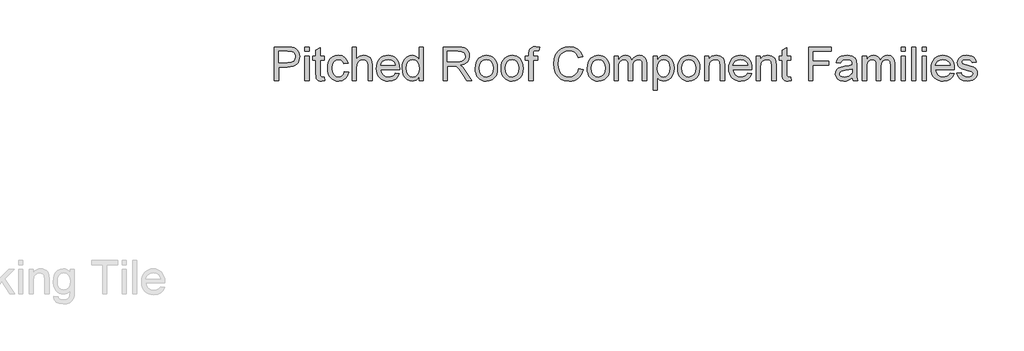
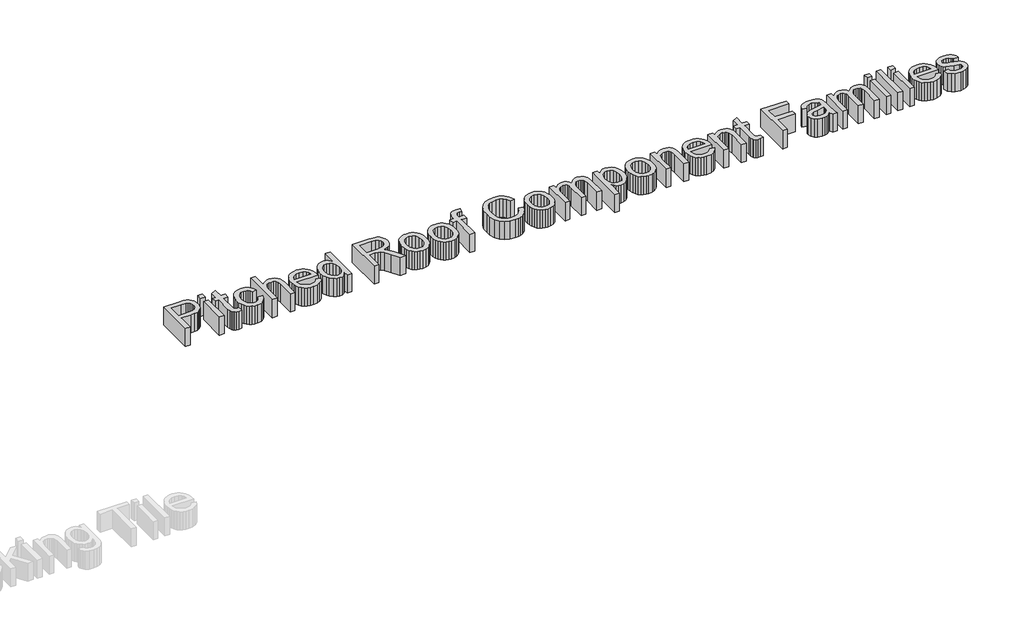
# One storey, part 5 of 6: 1 proxy.
"""IFC4 building model written with IfcOpenShell, lengths in millimetres."""

import ifcopenshell
import ifcopenshell.guid

model = None  # the IFC model being written
_history = None  # IfcOwnerHistory: only IFC2X3 demands one
_inside = {}  # id of a spatial element -> (the spatial element, [elements in it])
_under = {}  # id of a project, library or spatial element -> (it, [spatial elements below it])
_declared = {}  # id of a project -> (the project, [libraries it declares])
_typed = {}  # id of a type object -> (the type object, [elements of that type])
_made_of = {}  # id of a material, layer set ... -> (it, [elements and type objects made of it])


def new_model(schema):
    """Start an empty IFC model of exactly this schema.

    Asked for "IFC4X3", IfcOpenShell would pick the latest addendum, in which some entities
    have other attributes; the version numbers below select the first issue.
    IFC2X3 requires an IfcOwnerHistory on every rooted entity: one is made here for all.
    """
    global model, _history
    if schema == "IFC4X3":
        model = ifcopenshell.file(schema_version=(4, 3, 0, 0))
    else:
        model = ifcopenshell.file(schema=schema)
    _inside.clear()
    _under.clear()
    _declared.clear()
    _typed.clear()
    _made_of.clear()
    _history = None
    if model.schema == "IFC2X3":
        org = make("IfcOrganization", Name="unknown")
        user = make(
            "IfcPersonAndOrganization",
            ThePerson=make("IfcPerson", FamilyName="unknown"),
            TheOrganization=org,
        )
        app = make(
            "IfcApplication",
            ApplicationDeveloper=org,
            Version="unknown",
            ApplicationFullName="unknown",
            ApplicationIdentifier="unknown",
        )
        _history = make(
            "IfcOwnerHistory",
            OwningUser=user,
            OwningApplication=app,
            ChangeAction="ADDED",
            CreationDate=0,
        )
    return model


def make(cls, **values):
    """One entity of the class cls with the attributes given. An attribute that is None is left unset."""
    return model.create_entity(
        cls, **{name: value for name, value in values.items() if value is not None}
    )


def rooted(cls, **values):
    """An entity with a GlobalId (a new one), such as an element, a storey or a relation."""
    return make(cls, GlobalId=ifcopenshell.guid.new(), OwnerHistory=_history, **values)


def si_unit(unit_type, name, prefix=None):
    """IfcSIUnit, for example si_unit("LENGTHUNIT", "METRE", prefix="MILLI")."""
    return make("IfcSIUnit", UnitType=unit_type, Prefix=prefix, Name=name)


def assignment(units):
    """IfcUnitAssignment: the units of a project."""
    return None if units is None else make("IfcUnitAssignment", Units=units)


def point(xyz):
    """IfcCartesianPoint."""
    return None if xyz is None else make("IfcCartesianPoint", Coordinates=xyz)


def direction(xyz):
    """IfcDirection."""
    return None if xyz is None else make("IfcDirection", DirectionRatios=xyz)


def frame(location, z_axis=None, x_axis=None):
    """IfcAxis2Placement3D, a coordinate frame: its origin and axes. An axis left out is left unset."""
    return make(
        "IfcAxis2Placement3D",
        Location=point(location),
        Axis=direction(z_axis),
        RefDirection=direction(x_axis),
    )


def origin():
    """The frame at (0, 0, 0) with its axes left unset."""
    return frame((0.0, 0.0, 0.0))


def place(relative_to, where):
    """IfcLocalPlacement: puts the frame where relative to a parent placement (None: the world)."""
    return make(
        "IfcLocalPlacement", PlacementRelTo=relative_to, RelativePlacement=where
    )


def context(
    kind, dimensions, precision=None, world=None, true_north=None, identifier=None
):
    """IfcGeometricRepresentationContext, for example the 3D "Model" context."""
    return make(
        "IfcGeometricRepresentationContext",
        ContextIdentifier=identifier,
        ContextType=kind,
        CoordinateSpaceDimension=dimensions,
        Precision=precision,
        WorldCoordinateSystem=world,
        TrueNorth=true_north,
    )


def project(units=None, contexts=None):
    """IfcProject with its units and contexts."""
    return rooted(
        "IfcProject",
        Name="project",
        RepresentationContexts=contexts,
        UnitsInContext=assignment(units),
    )


def spatial(cls, under=None, at=None, **own):
    """A site, building, storey or space (cls), placed at a placement, below another one or the project."""
    s = rooted(cls, ObjectPlacement=at, **own)
    if under is not None:
        _under.setdefault(under.id(), (under, []))[1].append(s)
    return s


def polyline(points):
    """IfcPolyline through the points."""
    return make("IfcPolyline", Points=[point(p) for p in points])


def outline(outer, holes=None, kind="AREA"):
    """IfcArbitraryClosedProfileDef: a profile drawn as a closed curve; with holes, ...WithVoids."""
    if holes is None:
        return make("IfcArbitraryClosedProfileDef", ProfileType=kind, OuterCurve=outer)
    return make(
        "IfcArbitraryProfileDefWithVoids",
        ProfileType=kind,
        OuterCurve=outer,
        InnerCurves=holes,
    )


def extrude(swept, where, along, depth):
    """IfcExtrudedAreaSolid: the profile swept, set in the frame where, extruded along a direction by depth."""
    return make(
        "IfcExtrudedAreaSolid",
        SweptArea=swept,
        Position=where,
        ExtrudedDirection=direction(along),
        Depth=depth,
    )


def shape(context_of_items, identifier, shape_type, items):
    """IfcShapeRepresentation: the items that make up one representation, for example the "Body"."""
    return make(
        "IfcShapeRepresentation",
        ContextOfItems=context_of_items,
        RepresentationIdentifier=identifier,
        RepresentationType=shape_type,
        Items=items,
    )


def made_of(thing, what):
    """Note that an element or type object is made of a material, layer set ...; save() writes the relation."""
    if what is not None:
        _made_of.setdefault(what.id(), (what, []))[1].append(thing)
    return thing


def element(
    cls,
    number,
    at=None,
    inside=None,
    cuts=None,
    type_object=None,
    material=None,
    context=None,
    identifier="Body",
    shape_type=None,
    held_by="IfcProductDefinitionShape",
    body=None,
    shapes=None,
    **own,
):
    """One element of the class cls, such as IfcWall. Its Tag is "e" and its number.

    at: its placement. inside: the storey or other place that contains it. cuts: it is an
    opening in that element (IfcRelVoidsElement). A single representation is given by context,
    identifier, shape_type and body (its items); several are given by shapes. held_by: the class
    of the entity that holds the representations. save() writes the other relations.
    """
    e = rooted(cls, Tag="e%d" % number, ObjectPlacement=at, **own)
    if body is not None:
        shapes = [shape(context, identifier, shape_type, body)]
    if shapes is not None:
        e.Representation = make(held_by, Representations=shapes)
    if inside is not None:
        _inside.setdefault(inside.id(), (inside, []))[1].append(e)
    if cuts is not None:
        rooted(
            "IfcRelVoidsElement", RelatingBuildingElement=cuts, RelatedOpeningElement=e
        )
    if type_object is not None:
        _typed.setdefault(type_object.id(), (type_object, []))[1].append(e)
    return made_of(e, material)


def aggregate(whole, parts):
    """IfcRelAggregates: a whole, such as a stair, and the parts it consists of."""
    return rooted("IfcRelAggregates", RelatingObject=whole, RelatedObjects=parts)


def save(model, path):
    """Write the relations noted so far, then the file.

    IfcRelAggregates (storeys below a building ...), IfcRelContainedInSpatialStructure (elements
    in a storey), IfcRelDefinesByType, IfcRelAssociatesMaterial and IfcRelDeclares: one each for
    every whole, place, type object, material and project.
    """
    for whole, parts in _under.values():
        aggregate(whole, parts)
    for where, things in _inside.values():
        rooted(
            "IfcRelContainedInSpatialStructure",
            RelatedElements=things,
            RelatingStructure=where,
        )
    for kind, things in _typed.values():
        rooted("IfcRelDefinesByType", RelatedObjects=things, RelatingType=kind)
    for what, things in _made_of.values():
        rooted("IfcRelAssociatesMaterial", RelatedObjects=things, RelatingMaterial=what)
    for by, libraries in _declared.values():
        rooted("IfcRelDeclares", RelatingContext=by, RelatedDefinitions=libraries)
    model.write(path)


model = new_model("IFC4")

# Units and contexts
model_context = context("Model", 3, world=origin())
ifc_project = project(units=[si_unit("LENGTHUNIT", "METRE", prefix="MILLI")], contexts=[model_context])

# Site, building, storey
site = spatial("IfcSite", under=ifc_project)
building = spatial("IfcBuilding", under=site)
storey = spatial("IfcBuildingStorey", under=building, Name="Marley Concrete Interlocking", Elevation=3000.0)

# Proxy
placement = place(None, origin())
element("IfcBuildingElementProxy", 1, Name="600mm Arial", ObjectType="600mm Arial", at=placement, inside=storey, context=model_context, shape_type="SweptSolid", body=[
    extrude(outline(polyline([(-11393.4797646, 7272.6820267), (-11393.4797646, 7568.0666421), (-11284.0086108, 7568.0666421), (-11239.8739954, 7565.2541421), (-11220.1955098, 7559.9987335), (-11203.9965916, 7551.444046), (-11190.9527214, 7539.2024594), (-11180.73938, 7522.8863536), (-11174.1408223, 7503.6405604), (-11171.9413031, 7482.6099113), (-11177.8818079, 7447.7962094), (-11185.3074389, 7432.5663416), (-11195.7033223, 7418.787796), (-11209.9754077, 7407.3665219), (-11229.0296445, 7399.208469), (-11252.8660327, 7394.3136373), (-11281.4845723, 7392.6820267), (-11356.5566877, 7392.6820267), (-11356.5566877, 7272.6820267), (-11393.4797646, 7272.6820267)]), holes=[polyline([(-11356.5566877, 7429.6051036), (-11279.3211108, 7429.6051036), (-11246.5807262, 7432.9945267), (-11224.9461108, 7443.162796), (-11212.8848127, 7459.4789017), (-11208.86438, 7481.3118344), (-11211.2351733, 7497.8983729), (-11218.3475531, 7511.8887575), (-11229.318106, 7522.4176036), (-11243.2634185, 7528.6195267), (-11280.1864954, 7531.1435652), (-11356.5566877, 7531.1435652), (-11356.5566877, 7429.6051036)])]), frame((0.0, 0.0, 3000.0), z_axis=(0.0, 0.0, 1.0), x_axis=(1.0, 0.0, 0.0)), (0.0, 0.0, 1.0), 150.0),
    extrude(outline(polyline([(-11125.787457, 7272.6820267), (-11125.787457, 7489.6051036), (-11088.86438, 7489.6051036), (-11088.86438, 7272.6820267), (-11125.787457, 7272.6820267)])), frame((0.0, 0.0, 3000.0), z_axis=(0.0, 0.0, 1.0), x_axis=(1.0, 0.0, 0.0)), (0.0, 0.0, 1.0), 150.0),
    extrude(outline(polyline([(-11125.787457, 7531.1435652), (-11125.787457, 7568.0666421), (-11088.86438, 7568.0666421), (-11088.86438, 7531.1435652), (-11125.787457, 7531.1435652)])), frame((0.0, 0.0, 3000.0), z_axis=(0.0, 0.0, 1.0), x_axis=(1.0, 0.0, 0.0)), (0.0, 0.0, 1.0), 150.0),
    extrude(outline(polyline([(-10955.0182262, 7303.475296), (-10950.4028416, 7271.600296), (-10978.0230339, 7268.0666421), (-10995.7453896, 7269.599094), (-11008.9605339, 7274.1964498), (-11018.2994762, 7281.2817863), (-11024.3932262, 7290.2781806), (-11027.7465916, 7305.7289017), (-11028.86438, 7332.177219), (-11028.86438, 7452.6820267), (-11056.5566877, 7452.6820267), (-11056.5566877, 7489.6051036), (-11028.86438, 7489.6051036), (-11028.86438, 7542.3214498), (-10991.9413031, 7564.0281806), (-10991.9413031, 7489.6051036), (-10955.0182262, 7489.6051036), (-10955.0182262, 7452.6820267), (-10991.9413031, 7452.6820267), (-10991.9413031, 7333.2589498), (-10989.9941877, 7314.2204883), (-10983.6840916, 7307.4776998), (-10971.099957, 7304.989719), (-10955.0182262, 7303.475296)])), frame((0.0, 0.0, 3000.0), z_axis=(0.0, 0.0, 1.0), x_axis=(1.0, 0.0, 0.0)), (0.0, 0.0, 1.0), 150.0),
    extrude(outline(polyline([(-10779.6336108, 7351.1435652), (-10742.7105339, 7346.5281806), (-10753.005005, 7313.6886373), (-10772.349957, 7288.8719306), (-10798.9244762, 7273.2679642), (-10830.9076493, 7268.0666421), (-10851.6160327, 7269.8807948), (-10870.1834906, 7275.3232527), (-10886.6100231, 7284.3940159), (-10900.89563, 7297.0930844), (-10912.4588812, 7313.181576), (-10920.7183464, 7332.4206085), (-10925.6740255, 7354.8101818), (-10927.3259185, 7380.350296), (-10924.5044041, 7413.2078681), (-10916.0398608, 7441.6844306), (-10901.7970723, 7464.6802238), (-10881.6408223, 7481.0954883), (-10857.5272406, 7490.9392383), (-10831.412457, 7494.2204883), (-10800.2135387, 7489.7132767), (-10775.27063, 7476.1916421), (-10757.3770002, 7454.3767383), (-10747.3259185, 7424.989719), (-10784.2489954, 7420.3743344), (-10790.9467118, 7436.4831085), (-10801.3763993, 7448.0305844), (-10814.9611348, 7454.9807046), (-10831.1239954, 7457.2974113), (-10854.9851733, 7452.7361133), (-10873.9244762, 7439.052219), (-10886.2832502, 7415.506546), (-10890.4028416, 7381.3599113), (-10886.3733945, 7346.7535411), (-10874.2850531, 7323.1267383), (-10855.6882983, 7309.5239738), (-10832.1336108, 7304.989719), (-10813.0140195, 7307.8202479), (-10797.3379377, 7316.3118344), (-10785.9346925, 7330.6808248), (-10779.6336108, 7351.1435652)])), frame((0.0, 0.0, 3000.0), z_axis=(0.0, 0.0, 1.0), x_axis=(1.0, 0.0, 0.0)), (0.0, 0.0, 1.0), 150.0),
    extrude(outline(polyline([(-10710.4028416, 7272.6820267), (-10710.4028416, 7568.0666421), (-10673.4797646, 7568.0666421), (-10673.4797646, 7459.4608729), (-10659.9175651, 7474.6682046), (-10644.6876973, 7485.5305844), (-10627.7901613, 7492.0480123), (-10609.224957, 7494.2204883), (-10586.9232743, 7491.849695), (-10567.7586108, 7484.7373152), (-10552.6684666, 7473.4422431), (-10542.5903416, 7458.5233729), (-10536.911255, 7438.0245748), (-10535.0182262, 7409.989719), (-10535.0182262, 7272.6820267), (-10571.9413031, 7272.6820267), (-10571.9413031, 7406.1676036), (-10574.880005, 7429.2805844), (-10583.6961108, 7445.1099113), (-10597.9028416, 7454.2505363), (-10617.0134185, 7457.2974113), (-10632.6173848, 7455.2421229), (-10647.2658223, 7449.0762575), (-10659.3992358, 7439.3947671), (-10667.45813, 7426.7926036), (-10671.974356, 7410.0438056), (-10673.4797646, 7387.9224113), (-10673.4797646, 7272.6820267), (-10710.4028416, 7272.6820267)])), frame((0.0, 0.0, 3000.0), z_axis=(0.0, 0.0, 1.0), x_axis=(1.0, 0.0, 0.0)), (0.0, 0.0, 1.0), 150.0),
    extrude(outline(polyline([(-10332.3739954, 7337.2974113), (-10296.1720723, 7332.6820267), (-10309.2159425, 7305.4043825), (-10330.0302454, 7285.0137575), (-10358.146231, 7272.303421), (-10393.0951493, 7268.0666421), (-10416.0053055, 7269.8943164), (-10436.4184666, 7275.3773392), (-10454.3346324, 7284.5157106), (-10469.7538031, 7297.3094306), (-10482.1531421, 7313.4024294), (-10491.0098127, 7332.4386373), (-10496.3238151, 7354.4180544), (-10498.0951493, 7379.3406806), (-10496.3057863, 7405.1084089), (-10490.9376973, 7427.8202479), (-10481.9908824, 7447.4761974), (-10469.4653416, 7464.0762575), (-10454.0867358, 7477.2643585), (-10436.5807262, 7486.6844306), (-10416.9473127, 7492.3364738), (-10395.1864954, 7494.2204883), (-10374.1265495, 7492.3409811), (-10355.0813271, 7486.7024594), (-10338.0508284, 7477.3049234), (-10323.0350531, 7464.1483729), (-10310.7776913, 7447.5843705), (-10302.0224329, 7427.9644786), (-10296.7692779, 7405.2886974), (-10295.0182262, 7379.5570267), (-10295.2345723, 7369.6051036), (-10461.1720723, 7369.6051036), (-10454.7808464, 7341.9668825), (-10439.9340916, 7321.6483729), (-10418.5068079, 7309.1543825), (-10392.3739954, 7304.989719), (-10372.7225531, 7306.9188056), (-10356.1720723, 7312.7060652), (-10342.7225531, 7322.7120748), (-10332.3739954, 7337.2974113)]), holes=[polyline([(-10461.1720723, 7406.5281806), (-10331.9413031, 7406.5281806), (-10336.9352935, 7426.0353921), (-10346.724957, 7439.989719), (-10368.2513993, 7452.9704883), (-10395.3307262, 7457.2974113), (-10420.2195483, 7453.8448873), (-10440.7994762, 7443.4873152), (-10455.1053656, 7427.3424835), (-10461.1720723, 7406.5281806)])]), frame((0.0, 0.0, 3000.0), z_axis=(0.0, 0.0, 1.0), x_axis=(1.0, 0.0, 0.0)), (0.0, 0.0, 1.0), 150.0),
    extrude(outline(polyline([(-10124.2489954, 7272.6820267), (-10124.2489954, 7307.5137575), (-10135.2961709, 7290.2556445), (-10148.678082, 7277.928421), (-10164.3947286, 7270.5320868), (-10182.4461108, 7268.0666421), (-10206.3163031, 7271.6363536), (-10228.1672646, 7282.3454883), (-10246.6648608, 7299.4458488), (-10260.474957, 7322.1892383), (-10269.0747166, 7349.6561854), (-10271.9413031, 7380.927219), (-10269.3000771, 7411.8106325), (-10261.3763993, 7439.7012575), (-10248.1792839, 7463.0125556), (-10229.7177454, 7480.1579883), (-10207.3890195, 7490.7048633), (-10182.5903416, 7494.2204883), (-10164.5254377, 7491.7054642), (-10148.55188, 7484.1603921), (-10135.0122166, 7472.5948873), (-10124.2489954, 7458.0185652), (-10124.2489954, 7568.0666421), (-10087.3259185, 7568.0666421), (-10087.3259185, 7272.6820267), (-10124.2489954, 7272.6820267)]), holes=[polyline([(-10235.0182262, 7381.0714498), (-10230.8535627, 7347.6730123), (-10218.3595723, 7323.9200075), (-10200.2045243, 7309.7222911), (-10179.0566877, 7304.989719), (-10157.9178656, 7309.505945), (-10140.2225531, 7323.0546229), (-10128.2423848, 7345.8881565), (-10124.2489954, 7378.2589498), (-10128.3145002, 7413.6495748), (-10140.5110146, 7438.1868344), (-10158.6570483, 7452.5197671), (-10180.5711108, 7457.2974113), (-10201.9352935, 7452.70907), (-10219.4413031, 7438.944046), (-10231.1239954, 7415.2992142), (-10235.0182262, 7381.0714498)])]), frame((0.0, 0.0, 3000.0), z_axis=(0.0, 0.0, 1.0), x_axis=(1.0, 0.0, 0.0)), (0.0, 0.0, 1.0), 150.0),
    extrude(outline(polyline([(-9911.9413031, 7272.6820267), (-9911.9413031, 7568.0666421), (-9784.6576493, 7568.0666421), (-9750.4479137, 7566.0744546), (-9725.5590916, 7560.0978921), (-9707.3679858, 7549.0642383), (-9693.2513993, 7531.9007767), (-9684.1919041, 7510.6177238), (-9681.1720723, 7487.225296), (-9686.1750771, 7458.1267383), (-9701.1840916, 7434.0041421), (-9712.5535327, 7424.1739137), (-9726.6498368, 7416.317844), (-9763.0230339, 7406.5281806), (-9742.037457, 7390.7349113), (-9712.1095723, 7352.7301036), (-9662.8547646, 7272.6820267), (-9705.7634185, 7272.6820267), (-9744.2009185, 7333.9079883), (-9771.9653416, 7374.4368344), (-9791.4725531, 7393.583469), (-9809.0326493, 7400.614719), (-9830.4509185, 7401.912796), (-9875.0182262, 7401.912796), (-9875.0182262, 7272.6820267), (-9911.9413031, 7272.6820267)]), holes=[polyline([(-9875.0182262, 7438.8358729), (-9792.3739954, 7438.8358729), (-9768.6390195, 7440.1429642), (-9750.2225531, 7444.0642383), (-9736.3583704, 7450.8611133), (-9726.2802454, 7460.7950075), (-9720.1414233, 7472.8112335), (-9718.0951493, 7485.8551036), (-9721.9983945, 7503.865921), (-9733.70813, 7518.3791421), (-9753.8553656, 7527.9524594), (-9783.0711108, 7531.1435652), (-9875.0182262, 7531.1435652), (-9875.0182262, 7438.8358729)])]), frame((0.0, 0.0, 3000.0), z_axis=(0.0, 0.0, 1.0), x_axis=(1.0, 0.0, 0.0)), (0.0, 0.0, 1.0), 150.0),
    extrude(outline(polyline([(-9630.4028416, 7381.1435652), (-9628.4061469, 7409.2370147), (-9622.4160627, 7433.4452479), (-9612.4325892, 7453.7682647), (-9598.4557262, 7470.2060652), (-9584.3842118, 7480.7123753), (-9568.8523608, 7488.2168825), (-9551.8601733, 7492.7195868), (-9533.4076493, 7494.2204883), (-9513.0373067, 7492.392814), (-9494.6185868, 7486.9097911), (-9478.1514894, 7477.7714198), (-9463.6360146, 7464.9776998), (-9451.7888091, 7448.9613236), (-9443.3265195, 7430.1549835), (-9438.2491457, 7408.5586794), (-9436.5566877, 7384.1724113), (-9439.5494762, 7346.8707286), (-9448.5278416, 7318.475296), (-9463.2303656, 7297.2102719), (-9483.39563, 7281.2998152), (-9507.3469521, 7271.3749354), (-9533.4076493, 7268.0666421), (-9554.0754678, 7269.8875556), (-9572.6654618, 7275.350296), (-9589.1776312, 7284.4548633), (-9603.6119762, 7297.2012575), (-9615.3329798, 7313.3731325), (-9623.7051252, 7332.7541421), (-9628.7284125, 7355.3442863), (-9630.4028416, 7381.1435652)]), holes=[polyline([(-9593.4797646, 7381.2156806), (-9589.2069281, 7347.7992142), (-9576.3884185, 7323.9921229), (-9557.0975531, 7309.74032), (-9533.4076493, 7304.989719), (-9509.8259185, 7309.7673633), (-9490.5711108, 7324.100296), (-9477.7526012, 7348.2228921), (-9473.4797646, 7382.3695267), (-9477.7796445, 7414.8124354), (-9490.6792839, 7438.2950075), (-9509.9611348, 7452.5468104), (-9533.4076493, 7457.2974113), (-9557.0975531, 7452.5648392), (-9576.3884185, 7438.3671229), (-9589.2069281, 7414.6141181), (-9593.4797646, 7381.2156806)])]), frame((0.0, 0.0, 3000.0), z_axis=(0.0, 0.0, 1.0), x_axis=(1.0, 0.0, 0.0)), (0.0, 0.0, 1.0), 150.0),
    extrude(outline(polyline([(-9404.2489954, 7381.1435652), (-9402.2523007, 7409.2370147), (-9396.2622166, 7433.4452479), (-9386.278743, 7453.7682647), (-9372.30188, 7470.2060652), (-9358.2303656, 7480.7123753), (-9342.6985146, 7488.2168825), (-9325.7063271, 7492.7195868), (-9307.2538031, 7494.2204883), (-9286.8834606, 7492.392814), (-9268.4647406, 7486.9097911), (-9251.9976433, 7477.7714198), (-9237.4821685, 7464.9776998), (-9225.634963, 7448.9613236), (-9217.1726733, 7430.1549835), (-9212.0952995, 7408.5586794), (-9210.4028416, 7384.1724113), (-9213.39563, 7346.8707286), (-9222.3739954, 7318.475296), (-9237.0765195, 7297.2102719), (-9257.2417839, 7281.2998152), (-9281.193106, 7271.3749354), (-9307.2538031, 7268.0666421), (-9327.9216216, 7269.8875556), (-9346.5116156, 7275.350296), (-9363.0237851, 7284.4548633), (-9377.45813, 7297.2012575), (-9389.1791336, 7313.3731325), (-9397.5512791, 7332.7541421), (-9402.5745663, 7355.3442863), (-9404.2489954, 7381.1435652)]), holes=[polyline([(-9367.3259185, 7381.2156806), (-9363.053082, 7347.7992142), (-9350.2345723, 7323.9921229), (-9330.943707, 7309.74032), (-9307.2538031, 7304.989719), (-9283.6720723, 7309.7673633), (-9264.4172646, 7324.100296), (-9251.598755, 7348.2228921), (-9247.3259185, 7382.3695267), (-9251.6257983, 7414.8124354), (-9264.5254377, 7438.2950075), (-9283.8072887, 7452.5468104), (-9307.2538031, 7457.2974113), (-9330.943707, 7452.5648392), (-9350.2345723, 7438.3671229), (-9363.053082, 7414.6141181), (-9367.3259185, 7381.2156806)])]), frame((0.0, 0.0, 3000.0), z_axis=(0.0, 0.0, 1.0), x_axis=(1.0, 0.0, 0.0)), (0.0, 0.0, 1.0), 150.0),
    extrude(outline(polyline([(-9159.6336108, 7272.6820267), (-9159.6336108, 7452.6820267), (-9191.9413031, 7452.6820267), (-9191.9413031, 7489.6051036), (-9159.6336108, 7489.6051036), (-9159.6336108, 7511.4560652), (-9155.73938, 7542.2493344), (-9148.3114954, 7554.5269786), (-9136.8451493, 7564.2445267), (-9120.7994762, 7570.5726517), (-9099.6336108, 7572.6820267), (-9065.9557262, 7568.6435652), (-9071.36438, 7534.0281806), (-9092.6384185, 7535.7589498), (-9106.6738752, 7534.2264979), (-9115.89563, 7529.6291421), (-9121.0068079, 7520.849094), (-9122.7105339, 7506.7685652), (-9122.7105339, 7489.6051036), (-9081.1720723, 7489.6051036), (-9081.1720723, 7452.6820267), (-9122.7105339, 7452.6820267), (-9122.7105339, 7272.6820267), (-9159.6336108, 7272.6820267)])), frame((0.0, 0.0, 3000.0), z_axis=(0.0, 0.0, 1.0), x_axis=(1.0, 0.0, 0.0)), (0.0, 0.0, 1.0), 150.0),
    extrude(outline(polyline([(-8721.1720723, 7377.6820267), (-8684.2489954, 7368.162796), (-8691.5551853, 7345.2008068), (-8701.286255, 7325.1369546), (-8713.4422046, 7307.9712395), (-8728.0230339, 7293.7036613), (-8744.6997166, 7282.4874654), (-8763.1432262, 7274.4758969), (-8783.3535627, 7269.6689558), (-8805.3307262, 7268.0666421), (-8848.1582502, 7272.9164017), (-8882.1696685, 7287.4656806), (-8908.23938, 7311.209671), (-8927.2417839, 7343.6435652), (-8938.8433464, 7381.7745748), (-8942.7105339, 7422.6099113), (-8938.3385387, 7465.6808248), (-8925.2225531, 7502.8743344), (-8904.0476733, 7533.0095508), (-8875.4989954, 7554.9055844), (-8841.6408223, 7568.2379161), (-8804.537457, 7572.6820267), (-8764.0536829, 7566.9308248), (-8746.4417538, 7559.7418224), (-8730.58313, 7549.677219), (-8716.7392298, 7537.0029402), (-8705.1714714, 7521.9849113), (-8688.86438, 7484.9176036), (-8725.787457, 7476.1195267), (-8738.5879377, 7503.0456085), (-8756.0759185, 7521.5161613), (-8778.4677454, 7532.1982527), (-8805.9797646, 7535.7589498), (-8837.692505, 7531.8106325), (-8863.7441877, 7519.9656806), (-8883.5128175, 7501.4680844), (-8896.3763993, 7477.5618344), (-8903.4346925, 7450.536594), (-8905.787457, 7422.6820267), (-8903.0020002, 7388.5714498), (-8894.64563, 7359.0762575), (-8880.4028416, 7335.3232527), (-8859.95813, 7318.4392383), (-8835.4479137, 7308.3520988), (-8809.0086108, 7304.989719), (-8778.1882983, 7309.569046), (-8752.506207, 7323.3070267), (-8733.1161829, 7346.0594306), (-8721.1720723, 7377.6820267)])), frame((0.0, 0.0, 3000.0), z_axis=(0.0, 0.0, 1.0), x_axis=(1.0, 0.0, 0.0)), (0.0, 0.0, 1.0), 150.0),
    extrude(outline(polyline([(-8647.3259185, 7381.1435652), (-8645.3292238, 7409.2370147), (-8639.3391396, 7433.4452479), (-8629.3556661, 7453.7682647), (-8615.3788031, 7470.2060652), (-8601.3072887, 7480.7123753), (-8585.7754377, 7488.2168825), (-8568.7832502, 7492.7195868), (-8550.3307262, 7494.2204883), (-8529.9603836, 7492.392814), (-8511.5416637, 7486.9097911), (-8495.0745663, 7477.7714198), (-8480.5590916, 7464.9776998), (-8468.711886, 7448.9613236), (-8460.2495964, 7430.1549835), (-8455.1722226, 7408.5586794), (-8453.4797646, 7384.1724113), (-8456.4725531, 7346.8707286), (-8465.4509185, 7318.475296), (-8480.1534425, 7297.2102719), (-8500.318707, 7281.2998152), (-8524.2700291, 7271.3749354), (-8550.3307262, 7268.0666421), (-8570.9985447, 7269.8875556), (-8589.5885387, 7275.350296), (-8606.1007082, 7284.4548633), (-8620.5350531, 7297.2012575), (-8632.2560567, 7313.3731325), (-8640.6282021, 7332.7541421), (-8645.6514894, 7355.3442863), (-8647.3259185, 7381.1435652)]), holes=[polyline([(-8610.4028416, 7381.2156806), (-8606.130005, 7347.7992142), (-8593.3114954, 7323.9921229), (-8574.02063, 7309.74032), (-8550.3307262, 7304.989719), (-8526.7489954, 7309.7673633), (-8507.4941877, 7324.100296), (-8494.6756781, 7348.2228921), (-8490.4028416, 7382.3695267), (-8494.7027214, 7414.8124354), (-8507.6023608, 7438.2950075), (-8526.8842118, 7452.5468104), (-8550.3307262, 7457.2974113), (-8574.02063, 7452.5648392), (-8593.3114954, 7438.3671229), (-8606.130005, 7414.6141181), (-8610.4028416, 7381.2156806)])]), frame((0.0, 0.0, 3000.0), z_axis=(0.0, 0.0, 1.0), x_axis=(1.0, 0.0, 0.0)), (0.0, 0.0, 1.0), 150.0),
    extrude(outline(polyline([(-8411.9413031, 7272.6820267), (-8411.9413031, 7489.6051036), (-8375.0182262, 7489.6051036), (-8375.0182262, 7453.9079883), (-8363.912457, 7470.3052238), (-8349.6336108, 7483.1507767), (-8332.6684666, 7491.4530604), (-8313.5038031, 7494.2204883), (-8292.9689473, 7491.3989738), (-8276.5086108, 7482.9344306), (-8264.2129377, 7469.3857527), (-8256.1720723, 7451.3118344), (-8242.7135387, 7470.0843705), (-8227.3619762, 7483.4933248), (-8210.1173848, 7491.5386974), (-8190.9797646, 7494.2204883), (-8163.224356, 7489.7583488), (-8142.6985146, 7476.3719306), (-8130.0152214, 7453.7006565), (-8125.787457, 7421.3839498), (-8125.787457, 7272.6820267), (-8162.7105339, 7272.6820267), (-8162.7105339, 7405.5185652), (-8166.1360146, 7436.3478921), (-8170.9497166, 7444.8484931), (-8178.5398608, 7451.5281806), (-8188.302481, 7455.8551036), (-8199.6336108, 7457.2974113), (-8219.6366156, 7453.6014979), (-8235.943707, 7442.5137575), (-8246.7880579, 7423.2769786), (-8250.4028416, 7395.1339498), (-8250.4028416, 7272.6820267), (-8287.3259185, 7272.6820267), (-8287.3259185, 7409.6291421), (-8289.4623368, 7430.506546), (-8295.8715916, 7445.3983729), (-8307.1486348, 7454.3226517), (-8323.8884185, 7457.2974113), (-8338.1131781, 7455.3142383), (-8351.2201493, 7449.364719), (-8362.037457, 7439.5930844), (-8369.3932262, 7426.1435652), (-8373.6119762, 7407.4837094), (-8375.0182262, 7382.0810652), (-8375.0182262, 7272.6820267), (-8411.9413031, 7272.6820267)])), frame((0.0, 0.0, 3000.0), z_axis=(0.0, 0.0, 1.0), x_axis=(1.0, 0.0, 0.0)), (0.0, 0.0, 1.0), 150.0),
    extrude(outline(polyline([(-8070.4028416, 7189.6051036), (-8070.4028416, 7489.6051036), (-8033.4797646, 7489.6051036), (-8033.4797646, 7453.4031806), (-8021.4364954, 7471.2607527), (-8007.9509185, 7484.0161613), (-7992.2297646, 7491.6694065), (-7973.4797646, 7494.2204883), (-7948.5098127, 7490.6507767), (-7926.67688, 7479.9416421), (-7908.9004377, 7462.7421229), (-7896.099957, 7439.7012575), (-7888.365582, 7412.4957286), (-7885.787457, 7382.802219), (-7888.6991156, 7351.224695), (-7897.4340916, 7322.9825075), (-7911.7129377, 7299.5089498), (-7931.256207, 7282.2373152), (-7954.0176252, 7271.6093104), (-7977.9509185, 7268.0666421), (-7994.9250771, 7270.4374354), (-8010.0783223, 7277.5498152), (-8023.0500771, 7288.2859931), (-8033.4797646, 7301.5281806), (-8033.4797646, 7189.6051036), (-8070.4028416, 7189.6051036)]), holes=[polyline([(-8033.4797646, 7379.412796), (-8029.4863752, 7346.3118344), (-8017.506207, 7323.162796), (-7999.8289233, 7309.5329883), (-7978.7441877, 7304.989719), (-7957.3169041, 7309.6952479), (-7939.1888993, 7323.8118344), (-7926.8301252, 7347.8082286), (-7922.7105339, 7382.1531806), (-7926.7309666, 7415.0738536), (-7938.7922646, 7438.5474113), (-7956.442505, 7452.6099113), (-7977.2297646, 7457.2974113), (-7998.0981541, 7452.3124354), (-8016.4244762, 7437.3575075), (-8029.2159425, 7412.9013777), (-8033.4797646, 7379.412796)])]), frame((0.0, 0.0, 3000.0), z_axis=(0.0, 0.0, 1.0), x_axis=(1.0, 0.0, 0.0)), (0.0, 0.0, 1.0), 150.0),
    extrude(outline(polyline([(-7853.4797646, 7381.1435652), (-7851.4830699, 7409.2370147), (-7845.4929858, 7433.4452479), (-7835.5095122, 7453.7682647), (-7821.5326493, 7470.2060652), (-7807.4611348, 7480.7123753), (-7791.9292839, 7488.2168825), (-7774.9370964, 7492.7195868), (-7756.4845723, 7494.2204883), (-7736.1142298, 7492.392814), (-7717.6955098, 7486.9097911), (-7701.2284125, 7477.7714198), (-7686.7129377, 7464.9776998), (-7674.8657322, 7448.9613236), (-7666.4034425, 7430.1549835), (-7661.3260687, 7408.5586794), (-7659.6336108, 7384.1724113), (-7662.6263993, 7346.8707286), (-7671.6047646, 7318.475296), (-7686.3072887, 7297.2102719), (-7706.4725531, 7281.2998152), (-7730.4238752, 7271.3749354), (-7756.4845723, 7268.0666421), (-7777.1523909, 7269.8875556), (-7795.7423848, 7275.350296), (-7812.2545543, 7284.4548633), (-7826.6888993, 7297.2012575), (-7838.4099029, 7313.3731325), (-7846.7820483, 7332.7541421), (-7851.8053356, 7355.3442863), (-7853.4797646, 7381.1435652)]), holes=[polyline([(-7816.5566877, 7381.2156806), (-7812.2838512, 7347.7992142), (-7799.4653416, 7323.9921229), (-7780.1744762, 7309.74032), (-7756.4845723, 7304.989719), (-7732.9028416, 7309.7673633), (-7713.6480339, 7324.100296), (-7700.8295243, 7348.2228921), (-7696.5566877, 7382.3695267), (-7700.8565675, 7414.8124354), (-7713.756207, 7438.2950075), (-7733.0380579, 7452.5468104), (-7756.4845723, 7457.2974113), (-7780.1744762, 7452.5648392), (-7799.4653416, 7438.3671229), (-7812.2838512, 7414.6141181), (-7816.5566877, 7381.2156806)])]), frame((0.0, 0.0, 3000.0), z_axis=(0.0, 0.0, 1.0), x_axis=(1.0, 0.0, 0.0)), (0.0, 0.0, 1.0), 150.0),
    extrude(outline(polyline([(-7618.0951493, 7272.6820267), (-7618.0951493, 7489.6051036), (-7581.1720723, 7489.6051036), (-7581.1720723, 7459.3166421), (-7568.3445483, 7474.5870748), (-7552.9388993, 7485.4945267), (-7534.9551252, 7492.0389979), (-7514.3932262, 7494.2204883), (-7496.193106, 7492.4626758), (-7479.5254377, 7487.1892383), (-7465.6251973, 7479.0582286), (-7455.7273608, 7468.7276998), (-7444.6576493, 7441.5762575), (-7442.7105339, 7405.8791421), (-7442.7105339, 7272.6820267), (-7479.6336108, 7272.6820267), (-7479.6336108, 7400.9031806), (-7483.8884185, 7433.5714498), (-7489.7748368, 7443.2980123), (-7498.9244762, 7450.8430844), (-7510.6522406, 7455.6838296), (-7524.2730339, 7457.2974113), (-7545.8986348, 7453.6736133), (-7564.33313, 7442.802219), (-7571.7001673, 7433.9275195), (-7576.9623368, 7421.7986133), (-7581.1720723, 7387.7781806), (-7581.1720723, 7272.6820267), (-7618.0951493, 7272.6820267)])), frame((0.0, 0.0, 3000.0), z_axis=(0.0, 0.0, 1.0), x_axis=(1.0, 0.0, 0.0)), (0.0, 0.0, 1.0), 150.0),
    extrude(outline(polyline([(-7240.0663031, 7337.2974113), (-7203.86438, 7332.6820267), (-7216.9082502, 7305.4043825), (-7237.7225531, 7285.0137575), (-7265.8385387, 7272.303421), (-7300.787457, 7268.0666421), (-7323.6976132, 7269.8943164), (-7344.1107743, 7275.3773392), (-7362.0269401, 7284.5157106), (-7377.4461108, 7297.3094306), (-7389.8454497, 7313.4024294), (-7398.7021204, 7332.4386373), (-7404.0161228, 7354.4180544), (-7405.787457, 7379.3406806), (-7403.998094, 7405.1084089), (-7398.630005, 7427.8202479), (-7389.6831901, 7447.4761974), (-7377.1576493, 7464.0762575), (-7361.7790435, 7477.2643585), (-7344.2730339, 7486.6844306), (-7324.6396204, 7492.3364738), (-7302.8788031, 7494.2204883), (-7281.8188572, 7492.3409811), (-7262.7736348, 7486.7024594), (-7245.743136, 7477.3049234), (-7230.7273608, 7464.1483729), (-7218.469999, 7447.5843705), (-7209.7147406, 7427.9644786), (-7204.4615856, 7405.2886974), (-7202.7105339, 7379.5570267), (-7202.92688, 7369.6051036), (-7368.86438, 7369.6051036), (-7362.4731541, 7341.9668825), (-7347.6263993, 7321.6483729), (-7326.1991156, 7309.1543825), (-7300.0663031, 7304.989719), (-7280.4148608, 7306.9188056), (-7263.86438, 7312.7060652), (-7250.4148608, 7322.7120748), (-7240.0663031, 7337.2974113)]), holes=[polyline([(-7368.86438, 7406.5281806), (-7239.6336108, 7406.5281806), (-7244.6276012, 7426.0353921), (-7254.4172646, 7439.989719), (-7275.943707, 7452.9704883), (-7303.0230339, 7457.2974113), (-7327.911856, 7453.8448873), (-7348.4917839, 7443.4873152), (-7362.7976733, 7427.3424835), (-7368.86438, 7406.5281806)])]), frame((0.0, 0.0, 3000.0), z_axis=(0.0, 0.0, 1.0), x_axis=(1.0, 0.0, 0.0)), (0.0, 0.0, 1.0), 150.0),
    extrude(outline(polyline([(-7165.787457, 7272.6820267), (-7165.787457, 7489.6051036), (-7128.86438, 7489.6051036), (-7128.86438, 7459.3166421), (-7116.036856, 7474.5870748), (-7100.631207, 7485.4945267), (-7082.6474329, 7492.0389979), (-7062.0855339, 7494.2204883), (-7043.8854137, 7492.4626758), (-7027.2177454, 7487.1892383), (-7013.317505, 7479.0582286), (-7003.4196685, 7468.7276998), (-6992.349957, 7441.5762575), (-6990.4028416, 7405.8791421), (-6990.4028416, 7272.6820267), (-7027.3259185, 7272.6820267), (-7027.3259185, 7400.9031806), (-7031.5807262, 7433.5714498), (-7037.4671445, 7443.2980123), (-7046.6167839, 7450.8430844), (-7058.3445483, 7455.6838296), (-7071.9653416, 7457.2974113), (-7093.5909425, 7453.6736133), (-7112.0254377, 7442.802219), (-7119.392475, 7433.9275195), (-7124.6546445, 7421.7986133), (-7128.86438, 7387.7781806), (-7128.86438, 7272.6820267), (-7165.787457, 7272.6820267)])), frame((0.0, 0.0, 3000.0), z_axis=(0.0, 0.0, 1.0), x_axis=(1.0, 0.0, 0.0)), (0.0, 0.0, 1.0), 150.0),
    extrude(outline(polyline([(-6861.1720723, 7303.475296), (-6856.5566877, 7271.600296), (-6884.17688, 7268.0666421), (-6901.8992358, 7269.599094), (-6915.11438, 7274.1964498), (-6924.4533223, 7281.2817863), (-6930.5470723, 7290.2781806), (-6933.9004377, 7305.7289017), (-6935.0182262, 7332.177219), (-6935.0182262, 7452.6820267), (-6962.7105339, 7452.6820267), (-6962.7105339, 7489.6051036), (-6935.0182262, 7489.6051036), (-6935.0182262, 7542.3214498), (-6898.0951493, 7564.0281806), (-6898.0951493, 7489.6051036), (-6861.1720723, 7489.6051036), (-6861.1720723, 7452.6820267), (-6898.0951493, 7452.6820267), (-6898.0951493, 7333.2589498), (-6896.1480339, 7314.2204883), (-6889.8379377, 7307.4776998), (-6877.2538031, 7304.989719), (-6861.1720723, 7303.475296)])), frame((0.0, 0.0, 3000.0), z_axis=(0.0, 0.0, 1.0), x_axis=(1.0, 0.0, 0.0)), (0.0, 0.0, 1.0), 150.0),
    extrude(outline(polyline([(-6704.2489954, 7272.6820267), (-6704.2489954, 7568.0666421), (-6505.787457, 7568.0666421), (-6505.787457, 7531.1435652), (-6667.3259185, 7531.1435652), (-6667.3259185, 7443.4512575), (-6528.86438, 7443.4512575), (-6528.86438, 7406.5281806), (-6667.3259185, 7406.5281806), (-6667.3259185, 7272.6820267), (-6704.2489954, 7272.6820267)])), frame((0.0, 0.0, 3000.0), z_axis=(0.0, 0.0, 1.0), x_axis=(1.0, 0.0, 0.0)), (0.0, 0.0, 1.0), 150.0),
    extrude(outline(polyline([(-6321.1720723, 7300.3743344), (-6338.8132983, 7285.2481325), (-6356.9773608, 7275.350296), (-6376.0789233, 7269.8875556), (-6396.5326493, 7268.0666421), (-6427.3890195, 7272.4476517), (-6450.1504377, 7285.5906806), (-6464.1858945, 7305.5486133), (-6468.86438, 7330.3743344), (-6467.0975531, 7345.6808248), (-6461.7970723, 7359.5810652), (-6453.6209906, 7371.4801036), (-6443.2273608, 7380.7829883), (-6417.3739954, 7392.8983729), (-6385.42688, 7398.4512575), (-6347.6744762, 7404.2926036), (-6321.3884185, 7411.1435652), (-6321.1720723, 7419.364719), (-6323.7141396, 7435.8430844), (-6331.3403416, 7446.6243344), (-6348.39563, 7454.6291421), (-6372.1576493, 7457.2974113), (-6394.1528416, 7455.52157), (-6409.5134185, 7450.194046), (-6419.9881781, 7440.3412815), (-6427.3259185, 7424.989719), (-6464.2489954, 7429.6051036), (-6457.8397406, 7449.7974113), (-6448.2754377, 7465.662796), (-6434.6636589, 7477.7962094), (-6416.1119762, 7486.7926036), (-6393.4226733, 7492.3635171), (-6367.3980339, 7494.2204883), (-6342.4370964, 7492.5798633), (-6322.6504377, 7487.6579883), (-6307.7315675, 7480.2571469), (-6297.3739954, 7471.1796229), (-6290.505005, 7459.9566661), (-6286.05188, 7446.1195267), (-6284.2489954, 7413.8118344), (-6284.2489954, 7367.8743344), (-6282.3739954, 7303.7276998), (-6275.0182262, 7272.6820267), (-6311.9413031, 7272.6820267), (-6321.1720723, 7300.3743344)]), holes=[polyline([(-6321.1720723, 7374.2204883), (-6380.73938, 7362.8983729), (-6412.506207, 7356.912796), (-6426.8932262, 7347.177219), (-6431.9413031, 7332.9704883), (-6429.1919041, 7321.990921), (-6420.943707, 7312.9945267), (-6407.3770002, 7306.990921), (-6388.6720723, 7304.989719), (-6368.8403416, 7307.1982527), (-6351.3163031, 7313.8238536), (-6337.1095723, 7323.5864738), (-6327.2297646, 7335.2060652), (-6322.848755, 7347.177219), (-6321.3884185, 7363.7637575), (-6321.1720723, 7374.2204883)])]), frame((0.0, 0.0, 3000.0), z_axis=(0.0, 0.0, 1.0), x_axis=(1.0, 0.0, 0.0)), (0.0, 0.0, 1.0), 150.0),
    extrude(outline(polyline([(-6233.4797646, 7272.6820267), (-6233.4797646, 7489.6051036), (-6196.5566877, 7489.6051036), (-6196.5566877, 7453.9079883), (-6185.4509185, 7470.3052238), (-6171.1720723, 7483.1507767), (-6154.2069281, 7491.4530604), (-6135.0422646, 7494.2204883), (-6114.5074089, 7491.3989738), (-6098.0470723, 7482.9344306), (-6085.7513993, 7469.3857527), (-6077.7105339, 7451.3118344), (-6064.2520002, 7470.0843705), (-6048.9004377, 7483.4933248), (-6031.6558464, 7491.5386974), (-6012.5182262, 7494.2204883), (-5984.7628175, 7489.7583488), (-5964.2369762, 7476.3719306), (-5951.5536829, 7453.7006565), (-5947.3259185, 7421.3839498), (-5947.3259185, 7272.6820267), (-5984.2489954, 7272.6820267), (-5984.2489954, 7405.5185652), (-5987.6744762, 7436.3478921), (-5992.4881781, 7444.8484931), (-6000.0783223, 7451.5281806), (-6009.8409425, 7455.8551036), (-6021.1720723, 7457.2974113), (-6041.1750771, 7453.6014979), (-6057.4821685, 7442.5137575), (-6068.3265195, 7423.2769786), (-6071.9413031, 7395.1339498), (-6071.9413031, 7272.6820267), (-6108.86438, 7272.6820267), (-6108.86438, 7409.6291421), (-6111.0007983, 7430.506546), (-6117.4100531, 7445.3983729), (-6128.6870964, 7454.3226517), (-6145.42688, 7457.2974113), (-6159.6516396, 7455.3142383), (-6172.7586108, 7449.364719), (-6183.5759185, 7439.5930844), (-6190.9316877, 7426.1435652), (-6195.1504377, 7407.4837094), (-6196.5566877, 7382.0810652), (-6196.5566877, 7272.6820267), (-6233.4797646, 7272.6820267)])), frame((0.0, 0.0, 3000.0), z_axis=(0.0, 0.0, 1.0), x_axis=(1.0, 0.0, 0.0)), (0.0, 0.0, 1.0), 150.0),
    extrude(outline(polyline([(-5891.9413031, 7272.6820267), (-5891.9413031, 7489.6051036), (-5855.0182262, 7489.6051036), (-5855.0182262, 7272.6820267), (-5891.9413031, 7272.6820267)])), frame((0.0, 0.0, 3000.0), z_axis=(0.0, 0.0, 1.0), x_axis=(1.0, 0.0, 0.0)), (0.0, 0.0, 1.0), 150.0),
    extrude(outline(polyline([(-5891.9413031, 7531.1435652), (-5891.9413031, 7568.0666421), (-5855.0182262, 7568.0666421), (-5855.0182262, 7531.1435652), (-5891.9413031, 7531.1435652)])), frame((0.0, 0.0, 3000.0), z_axis=(0.0, 0.0, 1.0), x_axis=(1.0, 0.0, 0.0)), (0.0, 0.0, 1.0), 150.0),
    extrude(outline(polyline([(-5799.6336108, 7272.6820267), (-5799.6336108, 7568.0666421), (-5762.7105339, 7568.0666421), (-5762.7105339, 7272.6820267), (-5799.6336108, 7272.6820267)])), frame((0.0, 0.0, 3000.0), z_axis=(0.0, 0.0, 1.0), x_axis=(1.0, 0.0, 0.0)), (0.0, 0.0, 1.0), 150.0),
    extrude(outline(polyline([(-5707.3259185, 7272.6820267), (-5707.3259185, 7489.6051036), (-5670.4028416, 7489.6051036), (-5670.4028416, 7272.6820267), (-5707.3259185, 7272.6820267)])), frame((0.0, 0.0, 3000.0), z_axis=(0.0, 0.0, 1.0), x_axis=(1.0, 0.0, 0.0)), (0.0, 0.0, 1.0), 150.0),
    extrude(outline(polyline([(-5707.3259185, 7531.1435652), (-5707.3259185, 7568.0666421), (-5670.4028416, 7568.0666421), (-5670.4028416, 7531.1435652), (-5707.3259185, 7531.1435652)])), frame((0.0, 0.0, 3000.0), z_axis=(0.0, 0.0, 1.0), x_axis=(1.0, 0.0, 0.0)), (0.0, 0.0, 1.0), 150.0),
    extrude(outline(polyline([(-5463.1432262, 7337.2974113), (-5426.9413031, 7332.6820267), (-5439.9851733, 7305.4043825), (-5460.7994762, 7285.0137575), (-5488.9154618, 7272.303421), (-5523.86438, 7268.0666421), (-5546.7745363, 7269.8943164), (-5567.1876973, 7275.3773392), (-5585.1038632, 7284.5157106), (-5600.5230339, 7297.3094306), (-5612.9223728, 7313.4024294), (-5621.7790435, 7332.4386373), (-5627.0930459, 7354.4180544), (-5628.86438, 7379.3406806), (-5627.0750171, 7405.1084089), (-5621.7069281, 7427.8202479), (-5612.7601132, 7447.4761974), (-5600.2345723, 7464.0762575), (-5584.8559666, 7477.2643585), (-5567.349957, 7486.6844306), (-5547.7165435, 7492.3364738), (-5525.9557262, 7494.2204883), (-5504.8957803, 7492.3409811), (-5485.8505579, 7486.7024594), (-5468.8200591, 7477.3049234), (-5453.8042839, 7464.1483729), (-5441.5469221, 7447.5843705), (-5432.7916637, 7427.9644786), (-5427.5385086, 7405.2886974), (-5425.787457, 7379.5570267), (-5426.0038031, 7369.6051036), (-5591.9413031, 7369.6051036), (-5585.5500771, 7341.9668825), (-5570.7033223, 7321.6483729), (-5549.2760387, 7309.1543825), (-5523.1432262, 7304.989719), (-5503.4917839, 7306.9188056), (-5486.9413031, 7312.7060652), (-5473.4917839, 7322.7120748), (-5463.1432262, 7337.2974113)]), holes=[polyline([(-5591.9413031, 7406.5281806), (-5462.7105339, 7406.5281806), (-5467.7045243, 7426.0353921), (-5477.4941877, 7439.989719), (-5499.02063, 7452.9704883), (-5526.099957, 7457.2974113), (-5550.9887791, 7453.8448873), (-5571.568707, 7443.4873152), (-5585.8745964, 7427.3424835), (-5591.9413031, 7406.5281806)])]), frame((0.0, 0.0, 3000.0), z_axis=(0.0, 0.0, 1.0), x_axis=(1.0, 0.0, 0.0)), (0.0, 0.0, 1.0), 150.0),
    extrude(outline(polyline([(-5402.7105339, 7337.2974113), (-5365.787457, 7341.912796), (-5359.9641396, 7326.1195267), (-5348.6961108, 7314.5089498), (-5331.911255, 7307.3695267), (-5309.537457, 7304.989719), (-5287.4340916, 7307.1712094), (-5271.8932262, 7313.7156806), (-5262.6985146, 7323.1988536), (-5259.6336108, 7334.1964498), (-5262.7165435, 7343.6075075), (-5271.9653416, 7350.7829883), (-5309.9701493, 7361.3118344), (-5365.5711108, 7379.3767383), (-5379.6426252, 7388.4542623), (-5389.8379377, 7400.4704883), (-5396.0308464, 7414.6591902), (-5398.0951493, 7430.2541421), (-5396.4364954, 7444.5600315), (-5391.4605339, 7457.7661613), (-5383.6179858, 7469.349695), (-5373.3595723, 7478.787796), (-5349.8860146, 7489.7132767), (-5318.1191877, 7494.2204883), (-5294.0867358, 7492.4085892), (-5273.1913031, 7486.9728921), (-5256.3884185, 7478.4452479), (-5244.6336108, 7467.3575075), (-5236.8451493, 7452.8893585), (-5231.9413031, 7434.2204883), (-5268.86438, 7429.6051036), (-5273.5248368, 7441.224695), (-5282.7465916, 7449.9776998), (-5296.6197887, 7455.4674835), (-5315.2345723, 7457.2974113), (-5336.4364954, 7455.5486133), (-5350.5711108, 7450.302219), (-5358.521832, 7442.7301036), (-5361.1720723, 7434.0041421), (-5356.7730339, 7423.2589498), (-5342.9989954, 7415.1099113), (-5311.1961108, 7407.2493344), (-5257.0013993, 7389.8695267), (-5242.6864954, 7381.5582286), (-5231.83313, 7370.1820267), (-5224.9911829, 7355.7048633), (-5222.7105339, 7338.0906806), (-5225.3878175, 7319.881546), (-5233.4196685, 7302.7541421), (-5246.4995964, 7288.0516181), (-5264.3211108, 7277.1171229), (-5285.8475531, 7270.3292623), (-5310.0422646, 7268.0666421), (-5347.271832, 7272.4296229), (-5374.4413031, 7285.5185652), (-5392.5783223, 7307.1892383), (-5402.7105339, 7337.2974113)])), frame((0.0, 0.0, 3000.0), z_axis=(0.0, 0.0, 1.0), x_axis=(1.0, 0.0, 0.0)), (0.0, 0.0, 1.0), 150.0),
])

save(model, "model.ifc")
